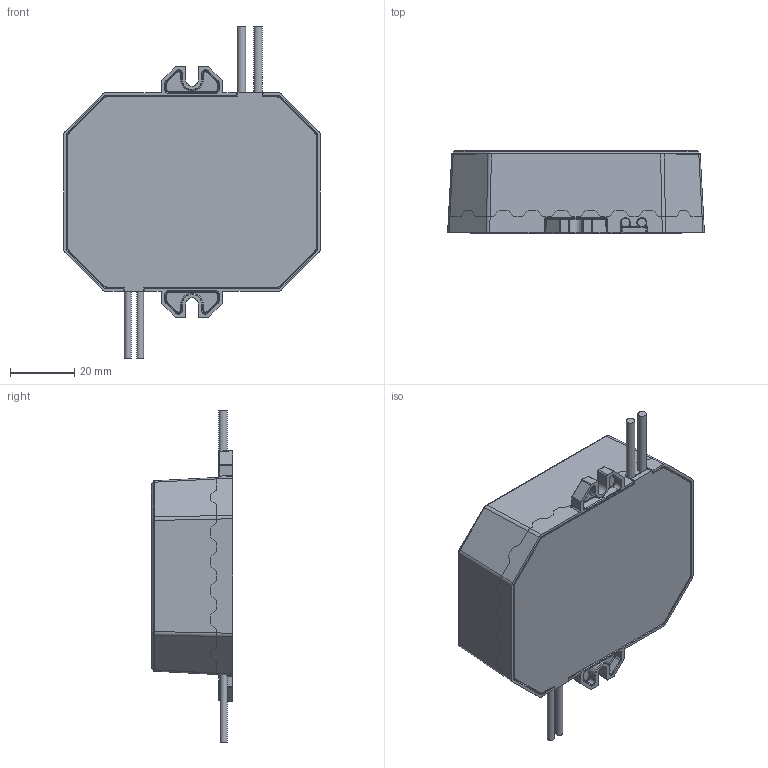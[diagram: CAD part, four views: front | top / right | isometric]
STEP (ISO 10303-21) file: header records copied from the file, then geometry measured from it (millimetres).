
FILE_DESCRIPTION (( 'STEP AP214' ), '1' );
FILE_NAME ('HCH-SAW25-010.STEP', '2015-07-16T15:46:45', ( '' ), ( '' ), 'SwSTEP 2.0', 'SolidWorks 2015', '' );
FILE_SCHEMA (( 'AUTOMOTIVE_DESIGN' ));
Length unit declared in the file: inch
Products named in the file (1): HCH-SAW25-010
Bounding box: 79.76 x 25.4 x 103.12 mm (x, y, z)
Volume: 28852.6 mm3; surface area: 31894.6 mm2
Topology: 6 solids, 6 shells, 728 faces, 1854 edges, 1144 vertices
Faces by surface type: plane 292, cylinder 258, bspline 148, sphere 20, torus 6, cone 4
Full cylindrical faces by diameter (mm): 2.146 x2, 2.629 x2
Entity records: 24665 total; most frequent: CARTESIAN_POINT 7288, ORIENTED_EDGE 3660, DIRECTION 2866, EDGE_CURVE 1830, VERTEX_POINT 1144, VECTOR 1068, LINE 1068, AXIS2_PLACEMENT_3D 899
